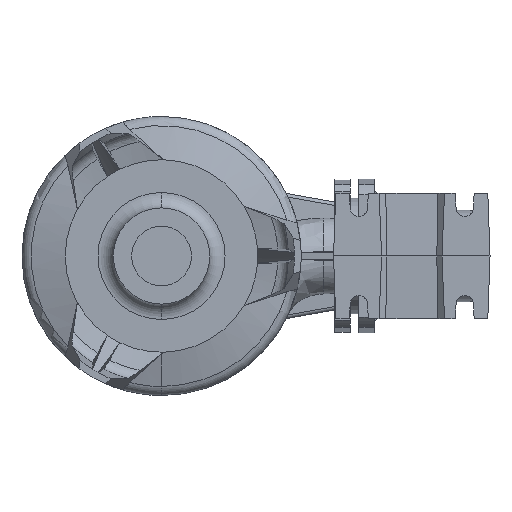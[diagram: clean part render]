
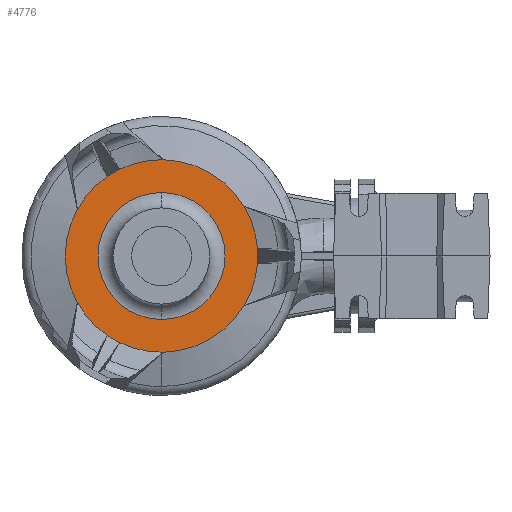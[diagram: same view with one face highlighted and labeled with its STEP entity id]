
A CAD part, front view. The second image highlights one B-rep face of the part: STEP entity #4776.
In plain terms, the highlighted planar face has unit normal (0, -1, 0).
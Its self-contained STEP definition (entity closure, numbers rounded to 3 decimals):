
#24 = DIRECTION ( 'NONE',  ( 0., 0., 1. ) ) ;
#112 = PLANE ( 'NONE',  #4451 ) ;
#273 = VERTEX_POINT ( 'NONE', #967 ) ;
#557 = EDGE_CURVE ( 'NONE', #12889, #9356, #3755, .T. ) ;
#613 = DIRECTION ( 'NONE',  ( 0., 1., 0. ) ) ;
#805 = DIRECTION ( 'NONE',  ( 0., 0., -1. ) ) ;
#967 = CARTESIAN_POINT ( 'NONE',  ( -174.958, -178.993, 7.483 ) ) ;
#1106 = CARTESIAN_POINT ( 'NONE',  ( -318.057, -178.993, -90.101 ) ) ;
#1190 = AXIS2_PLACEMENT_3D ( 'NONE', #13990, #18144, #8581 ) ;
#1301 = VERTEX_POINT ( 'NONE', #15407 ) ;
#1380 = AXIS2_PLACEMENT_3D ( 'NONE', #12902, #1406, #7027 ) ;
#1406 = DIRECTION ( 'NONE',  ( 0., -1., 0. ) ) ;
#1446 = DIRECTION ( 'NONE',  ( 0., -1., 0. ) ) ;
#1498 = CARTESIAN_POINT ( 'NONE',  ( -274.678, -178.993, 0. ) ) ;
#1857 = CARTESIAN_POINT ( 'NONE',  ( -274.678, -178.993, 0. ) ) ;
#2154 = VERTEX_POINT ( 'NONE', #6081 ) ;
#2455 = DIRECTION ( 'NONE',  ( 0., 0., -1. ) ) ;
#2808 = AXIS2_PLACEMENT_3D ( 'NONE', #14327, #613, #8915 ) ;
#3250 = ORIENTED_EDGE ( 'NONE', *, *, #14918, .T. ) ;
#3325 = DIRECTION ( 'NONE',  ( 0., 0., -1. ) ) ;
#3424 = ORIENTED_EDGE ( 'NONE', *, *, #3804, .T. ) ;
#3435 = DIRECTION ( 'NONE',  ( 0., 0., -1. ) ) ;
#3480 = DIRECTION ( 'NONE',  ( 0., -1., 0. ) ) ;
#3755 = CIRCLE ( 'NONE', #13763, 100. ) ;
#3804 = EDGE_CURVE ( 'NONE', #9356, #7784, #10058, .T. ) ;
#4125 = AXIS2_PLACEMENT_3D ( 'NONE', #9105, #16336, #805 ) ;
#4232 = CIRCLE ( 'NONE', #15981, 100. ) ;
#4238 = DIRECTION ( 'NONE',  ( 0., 1., 0. ) ) ;
#4253 = CARTESIAN_POINT ( 'NONE',  ( -331.018, -178.993, -82.618 ) ) ;
#4280 = CARTESIAN_POINT ( 'NONE',  ( -188.97, -178.993, 51.519 ) ) ;
#4298 = DIRECTION ( 'NONE',  ( 0., 0., -1. ) ) ;
#4451 = AXIS2_PLACEMENT_3D ( 'NONE', #12799, #4238, #15473 ) ;
#4531 = CARTESIAN_POINT ( 'NONE',  ( -274.678, -178.993, 0. ) ) ;
#4776 = ADVANCED_FACE ( 'NONE', ( #14277, #5819 ), #112, .F. ) ;
#4871 = CIRCLE ( 'NONE', #16044, 100. ) ;
#4899 = CARTESIAN_POINT ( 'NONE',  ( -272.914, -178.993, 99.984 ) ) ;
#4917 = CARTESIAN_POINT ( 'NONE',  ( -274.678, -178.993, 0. ) ) ;
#4960 = ORIENTED_EDGE ( 'NONE', *, *, #10066, .F. ) ;
#5044 = CARTESIAN_POINT ( 'NONE',  ( -274.678, -178.993, 0. ) ) ;
#5185 = CARTESIAN_POINT ( 'NONE',  ( -188.97, -178.993, -51.519 ) ) ;
#5297 = ORIENTED_EDGE ( 'NONE', *, *, #10516, .T. ) ;
#5495 = EDGE_CURVE ( 'NONE', #6261, #273, #10072, .T. ) ;
#5500 = DIRECTION ( 'NONE',  ( 0., 0., -1. ) ) ;
#5750 = ORIENTED_EDGE ( 'NONE', *, *, #5495, .F. ) ;
#5762 = CIRCLE ( 'NONE', #2808, 100. ) ;
#5779 = CIRCLE ( 'NONE', #18105, 100. ) ;
#5803 = CIRCLE ( 'NONE', #1380, 100. ) ;
#5819 = FACE_OUTER_BOUND ( 'NONE', #6966, .T. ) ;
#5950 = EDGE_LOOP ( 'NONE', ( #6955, #10169 ) ) ;
#6081 = CARTESIAN_POINT ( 'NONE',  ( -274.678, -178.993, -66. ) ) ;
#6261 = VERTEX_POINT ( 'NONE', #4280 ) ;
#6361 = CARTESIAN_POINT ( 'NONE',  ( -174.958, -178.993, -7.483 ) ) ;
#6558 = CARTESIAN_POINT ( 'NONE',  ( -272.914, -178.993, -99.984 ) ) ;
#6951 = CIRCLE ( 'NONE', #12217, 100. ) ;
#6955 = ORIENTED_EDGE ( 'NONE', *, *, #16129, .T. ) ;
#6966 = EDGE_LOOP ( 'NONE', ( #5750, #13875, #3250, #5297, #8454, #16682, #4960, #16355, #3424, #12777, #15633, #15584, #7564 ) ) ;
#7027 = DIRECTION ( 'NONE',  ( 0., 0., -1. ) ) ;
#7564 = ORIENTED_EDGE ( 'NONE', *, *, #11711, .T. ) ;
#7783 = CIRCLE ( 'NONE', #11883, 100. ) ;
#7784 = VERTEX_POINT ( 'NONE', #1106 ) ;
#8454 = ORIENTED_EDGE ( 'NONE', *, *, #9962, .T. ) ;
#8464 = CARTESIAN_POINT ( 'NONE',  ( -274.678, -178.993, 0. ) ) ;
#8581 = DIRECTION ( 'NONE',  ( 0., 0., -1. ) ) ;
#8738 = CARTESIAN_POINT ( 'NONE',  ( -274.678, -178.993, 0. ) ) ;
#8915 = DIRECTION ( 'NONE',  ( 0., 0., -1. ) ) ;
#8968 = CARTESIAN_POINT ( 'NONE',  ( -274.678, -178.993, 0. ) ) ;
#9031 = DIRECTION ( 'NONE',  ( 0., 0., 1. ) ) ;
#9105 = CARTESIAN_POINT ( 'NONE',  ( -274.678, -178.993, 0. ) ) ;
#9124 = DIRECTION ( 'NONE',  ( 0., 0., 1. ) ) ;
#9284 = DIRECTION ( 'NONE',  ( 0., 0., -1. ) ) ;
#9334 = DIRECTION ( 'NONE',  ( 0., 1., 0. ) ) ;
#9335 = DIRECTION ( 'NONE',  ( 0., 0., -1. ) ) ;
#9356 = VERTEX_POINT ( 'NONE', #4253 ) ;
#9458 = CARTESIAN_POINT ( 'NONE',  ( -274.678, -178.993, 0. ) ) ;
#9507 = VERTEX_POINT ( 'NONE', #16018 ) ;
#9734 = CIRCLE ( 'NONE', #4125, 100. ) ;
#9962 = EDGE_CURVE ( 'NONE', #18102, #15587, #10743, .T. ) ;
#10058 = CIRCLE ( 'NONE', #15035, 100. ) ;
#10066 = EDGE_CURVE ( 'NONE', #12889, #12584, #5779, .T. ) ;
#10072 = CIRCLE ( 'NONE', #15336, 100. ) ;
#10152 = AXIS2_PLACEMENT_3D ( 'NONE', #5044, #10658, #9284 ) ;
#10169 = ORIENTED_EDGE ( 'NONE', *, *, #10868, .T. ) ;
#10244 = EDGE_CURVE ( 'NONE', #15943, #6261, #6951, .T. ) ;
#10316 = VERTEX_POINT ( 'NONE', #5185 ) ;
#10516 = EDGE_CURVE ( 'NONE', #1301, #18102, #16015, .T. ) ;
#10658 = DIRECTION ( 'NONE',  ( 0., 1., 0. ) ) ;
#10663 = CARTESIAN_POINT ( 'NONE',  ( -274.678, -178.993, 0. ) ) ;
#10743 = CIRCLE ( 'NONE', #11940, 100. ) ;
#10868 = EDGE_CURVE ( 'NONE', #9507, #2154, #14255, .T. ) ;
#11066 = DIRECTION ( 'NONE',  ( 0., -1., 0. ) ) ;
#11081 = EDGE_CURVE ( 'NONE', #10316, #14515, #5762, .T. ) ;
#11711 = EDGE_CURVE ( 'NONE', #16399, #273, #4871, .T. ) ;
#11883 = AXIS2_PLACEMENT_3D ( 'NONE', #9458, #15056, #2455 ) ;
#11940 = AXIS2_PLACEMENT_3D ( 'NONE', #10663, #15991, #9031 ) ;
#11947 = CARTESIAN_POINT ( 'NONE',  ( -362.148, -178.993, -48.465 ) ) ;
#12217 = AXIS2_PLACEMENT_3D ( 'NONE', #13726, #16217, #9335 ) ;
#12304 = EDGE_CURVE ( 'NONE', #7784, #14515, #5803, .T. ) ;
#12584 = VERTEX_POINT ( 'NONE', #13789 ) ;
#12714 = DIRECTION ( 'NONE',  ( 0., 0., -1. ) ) ;
#12777 = ORIENTED_EDGE ( 'NONE', *, *, #12304, .T. ) ;
#12799 = CARTESIAN_POINT ( 'NONE',  ( -340.678, -178.993, 0. ) ) ;
#12889 = VERTEX_POINT ( 'NONE', #11947 ) ;
#12901 = DIRECTION ( 'NONE',  ( 0., -1., 0. ) ) ;
#12902 = CARTESIAN_POINT ( 'NONE',  ( -274.678, -178.993, 0. ) ) ;
#13726 = CARTESIAN_POINT ( 'NONE',  ( -274.678, -178.993, 0. ) ) ;
#13758 = CARTESIAN_POINT ( 'NONE',  ( -331.018, -178.993, 82.618 ) ) ;
#13763 = AXIS2_PLACEMENT_3D ( 'NONE', #4531, #12901, #12714 ) ;
#13789 = CARTESIAN_POINT ( 'NONE',  ( -362.148, -178.993, 48.465 ) ) ;
#13869 = DIRECTION ( 'NONE',  ( 0., 1., 0. ) ) ;
#13875 = ORIENTED_EDGE ( 'NONE', *, *, #10244, .F. ) ;
#13990 = CARTESIAN_POINT ( 'NONE',  ( -274.678, -178.993, 0. ) ) ;
#14255 = CIRCLE ( 'NONE', #10152, 66. ) ;
#14277 = FACE_BOUND ( 'NONE', #5950, .T. ) ;
#14327 = CARTESIAN_POINT ( 'NONE',  ( -274.678, -178.993, 0. ) ) ;
#14515 = VERTEX_POINT ( 'NONE', #6558 ) ;
#14560 = DIRECTION ( 'NONE',  ( 0., -1., 0. ) ) ;
#14918 = EDGE_CURVE ( 'NONE', #15943, #1301, #7783, .T. ) ;
#15027 = EDGE_CURVE ( 'NONE', #15587, #12584, #4232, .T. ) ;
#15035 = AXIS2_PLACEMENT_3D ( 'NONE', #1857, #3480, #9124 ) ;
#15056 = DIRECTION ( 'NONE',  ( 0., -1., 0. ) ) ;
#15336 = AXIS2_PLACEMENT_3D ( 'NONE', #4917, #9334, #3435 ) ;
#15407 = CARTESIAN_POINT ( 'NONE',  ( -274.678, -178.993, 100. ) ) ;
#15473 = DIRECTION ( 'NONE',  ( 0., 0., -1. ) ) ;
#15584 = ORIENTED_EDGE ( 'NONE', *, *, #16731, .F. ) ;
#15587 = VERTEX_POINT ( 'NONE', #13758 ) ;
#15633 = ORIENTED_EDGE ( 'NONE', *, *, #11081, .F. ) ;
#15943 = VERTEX_POINT ( 'NONE', #4899 ) ;
#15962 = CARTESIAN_POINT ( 'NONE',  ( -318.057, -178.993, 90.101 ) ) ;
#15981 = AXIS2_PLACEMENT_3D ( 'NONE', #8738, #1446, #4298 ) ;
#15991 = DIRECTION ( 'NONE',  ( 0., -1., 0. ) ) ;
#16015 = CIRCLE ( 'NONE', #16913, 100. ) ;
#16018 = CARTESIAN_POINT ( 'NONE',  ( -274.678, -178.993, 66. ) ) ;
#16044 = AXIS2_PLACEMENT_3D ( 'NONE', #1498, #11066, #24 ) ;
#16129 = EDGE_CURVE ( 'NONE', #2154, #9507, #17079, .T. ) ;
#16217 = DIRECTION ( 'NONE',  ( 0., 1., 0. ) ) ;
#16336 = DIRECTION ( 'NONE',  ( 0., 1., 0. ) ) ;
#16355 = ORIENTED_EDGE ( 'NONE', *, *, #557, .T. ) ;
#16399 = VERTEX_POINT ( 'NONE', #6361 ) ;
#16682 = ORIENTED_EDGE ( 'NONE', *, *, #15027, .T. ) ;
#16731 = EDGE_CURVE ( 'NONE', #16399, #10316, #9734, .T. ) ;
#16913 = AXIS2_PLACEMENT_3D ( 'NONE', #8968, #14560, #3325 ) ;
#17079 = CIRCLE ( 'NONE', #1190, 66. ) ;
#18102 = VERTEX_POINT ( 'NONE', #15962 ) ;
#18105 = AXIS2_PLACEMENT_3D ( 'NONE', #8464, #13869, #5500 ) ;
#18144 = DIRECTION ( 'NONE',  ( 0., 1., 0. ) ) ;
